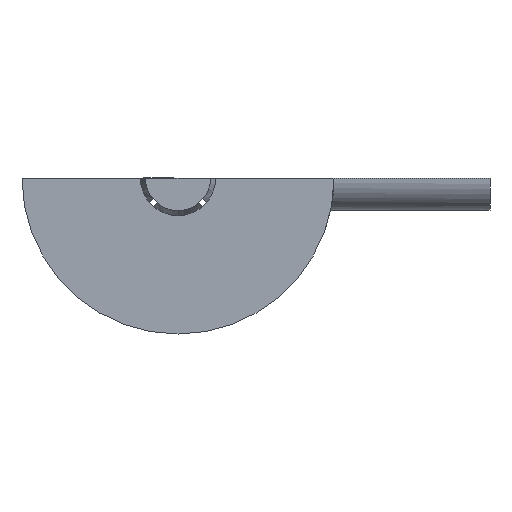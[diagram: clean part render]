
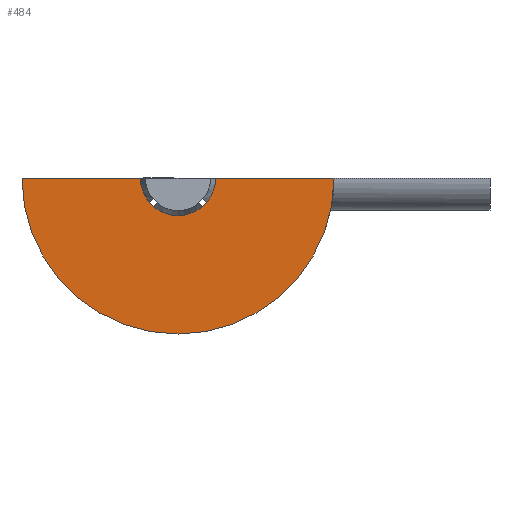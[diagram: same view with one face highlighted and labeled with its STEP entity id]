
A CAD part, front view. The second image highlights one B-rep face of the part: STEP entity #484.
In plain terms, the highlighted planar face has unit normal (0, -1, 0).
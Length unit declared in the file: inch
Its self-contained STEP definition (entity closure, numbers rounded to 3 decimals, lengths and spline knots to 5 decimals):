
#18 = VERTEX_POINT ( 'NONE', #505 ) ;
#32 = VERTEX_POINT ( 'NONE', #543 ) ;
#37 = EDGE_CURVE ( 'NONE', #18, #32, #534, .T. ) ;
#49 = VERTEX_POINT ( 'NONE', #573 ) ;
#172 = EDGE_CURVE ( 'NONE', #173, #18, #783, .T. ) ;
#173 = VERTEX_POINT ( 'NONE', #779 ) ;
#176 = EDGE_CURVE ( 'NONE', #177, #49, #778, .T. ) ;
#177 = VERTEX_POINT ( 'NONE', #774 ) ;
#191 = EDGE_CURVE ( 'NONE', #49, #192, #812, .T. ) ;
#192 = VERTEX_POINT ( 'NONE', #807 ) ;
#248 = EDGE_CURVE ( 'NONE', #32, #177, #925, .T. ) ;
#412 = EDGE_CURVE ( 'NONE', #192, #173, #1237, .T. ) ;
#419 = ORIENTED_EDGE ( 'NONE', *, *, #37, .T. ) ;
#420 = ORIENTED_EDGE ( 'NONE', *, *, #248, .T. ) ;
#421 = ORIENTED_EDGE ( 'NONE', *, *, #176, .T. ) ;
#484 = ADVANCED_FACE ( 'NONE', ( #1344 ), #1343, .T. ) ;
#485 = EDGE_LOOP ( 'NONE', ( #486, #487, #488, #419, #420, #421 ) ) ;
#486 = ORIENTED_EDGE ( 'NONE', *, *, #191, .T. ) ;
#487 = ORIENTED_EDGE ( 'NONE', *, *, #412, .T. ) ;
#488 = ORIENTED_EDGE ( 'NONE', *, *, #172, .T. ) ;
#505 = CARTESIAN_POINT ( 'NONE',  ( -1.5, -0.5, 0. ) ) ;
#530 = DIRECTION ( 'NONE',  ( 0., 0., -1. ) ) ;
#531 = DIRECTION ( 'NONE',  ( 0., -1., 0. ) ) ;
#532 = CARTESIAN_POINT ( 'NONE',  ( 0., -0.5, 0. ) ) ;
#533 = AXIS2_PLACEMENT_3D ( 'NONE', #532, #531, #530 ) ;
#534 = CIRCLE ( 'NONE', #533, 1.5 ) ;
#543 = CARTESIAN_POINT ( 'NONE',  ( 0., -0.5, -1.5 ) ) ;
#573 = CARTESIAN_POINT ( 'NONE',  ( 0.3625, -0.5, 0. ) ) ;
#774 = CARTESIAN_POINT ( 'NONE',  ( 1.5, -0.5, 0. ) ) ;
#775 = DIRECTION ( 'NONE',  ( -1., 0., 0. ) ) ;
#776 = VECTOR ( 'NONE', #775, 39.37008 ) ;
#777 = CARTESIAN_POINT ( 'NONE',  ( 1.5, -0.5, 0. ) ) ;
#778 = LINE ( 'NONE', #777, #776 ) ;
#779 = CARTESIAN_POINT ( 'NONE',  ( -0.3625, -0.5, 0. ) ) ;
#780 = DIRECTION ( 'NONE',  ( -1., 0., 0. ) ) ;
#781 = VECTOR ( 'NONE', #780, 39.37008 ) ;
#782 = CARTESIAN_POINT ( 'NONE',  ( -0.3625, -0.5, 0. ) ) ;
#783 = LINE ( 'NONE', #782, #781 ) ;
#807 = CARTESIAN_POINT ( 'NONE',  ( 0., -0.5, -0.3625 ) ) ;
#808 = DIRECTION ( 'NONE',  ( 0., 0., -1. ) ) ;
#809 = DIRECTION ( 'NONE',  ( 0., 1., 0. ) ) ;
#810 = CARTESIAN_POINT ( 'NONE',  ( 0., -0.5, 0. ) ) ;
#811 = AXIS2_PLACEMENT_3D ( 'NONE', #810, #809, #808 ) ;
#812 = CIRCLE ( 'NONE', #811, 0.3625 ) ;
#925 = CIRCLE ( 'NONE', #951, 1.5 ) ;
#948 = DIRECTION ( 'NONE',  ( 0., 0., -1. ) ) ;
#949 = DIRECTION ( 'NONE',  ( 0., -1., 0. ) ) ;
#950 = CARTESIAN_POINT ( 'NONE',  ( 0., -0.5, 0. ) ) ;
#951 = AXIS2_PLACEMENT_3D ( 'NONE', #950, #949, #948 ) ;
#1234 = DIRECTION ( 'NONE',  ( 0., 1., 0. ) ) ;
#1235 = CARTESIAN_POINT ( 'NONE',  ( 0., -0.5, 0. ) ) ;
#1236 = AXIS2_PLACEMENT_3D ( 'NONE', #1235, #1234, #1297 ) ;
#1237 = CIRCLE ( 'NONE', #1236, 0.3625 ) ;
#1297 = DIRECTION ( 'NONE',  ( 0., 0., -1. ) ) ;
#1339 = DIRECTION ( 'NONE',  ( 0., 0., -1. ) ) ;
#1340 = DIRECTION ( 'NONE',  ( 0., -1., 0. ) ) ;
#1341 = CARTESIAN_POINT ( 'NONE',  ( 0., -0.5, 0. ) ) ;
#1342 = AXIS2_PLACEMENT_3D ( 'NONE', #1341, #1340, #1339 ) ;
#1343 = PLANE ( 'NONE',  #1342 ) ;
#1344 = FACE_OUTER_BOUND ( 'NONE', #485, .T. ) ;
